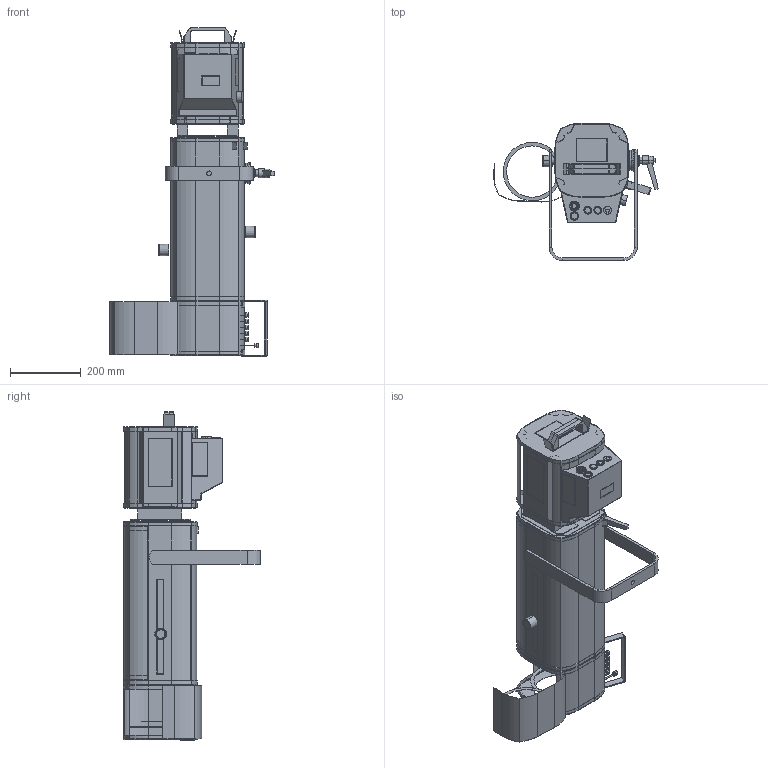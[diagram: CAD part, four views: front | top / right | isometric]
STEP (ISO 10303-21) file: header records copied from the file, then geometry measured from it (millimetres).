
FILE_DESCRIPTION (( 'STEP AP203' ), '1' );
FILE_NAME ('CAD client__Poursuite Sully.STEP', '2020-06-19T06:50:17', ( '' ), ( '' ), 'SwSTEP 2.0', 'SolidWorks 2019', '' );
FILE_SCHEMA (( 'CONFIG_CONTROL_DESIGN' ));
Length unit declared in the file: millimetre
Products named in the file (1): CAD client__Poursuite Sully
Bounding box: 464.21 x 386.8 x 927.7 mm (x, y, z)
Volume: 1639342.6 mm3; surface area: 2370101.1 mm2
Topology: 65 solids, 65 shells, 1207 faces, 2710 edges, 1668 vertices
Faces by surface type: plane 697, cylinder 412, torus 70, cone 24, bspline 4
Entity records: 33520 total; most frequent: CARTESIAN_POINT 6028, DIRECTION 5985, ORIENTED_EDGE 5420, EDGE_CURVE 2710, AXIS2_PLACEMENT_3D 2133, LINE 1719, VECTOR 1719, VERTEX_POINT 1668
